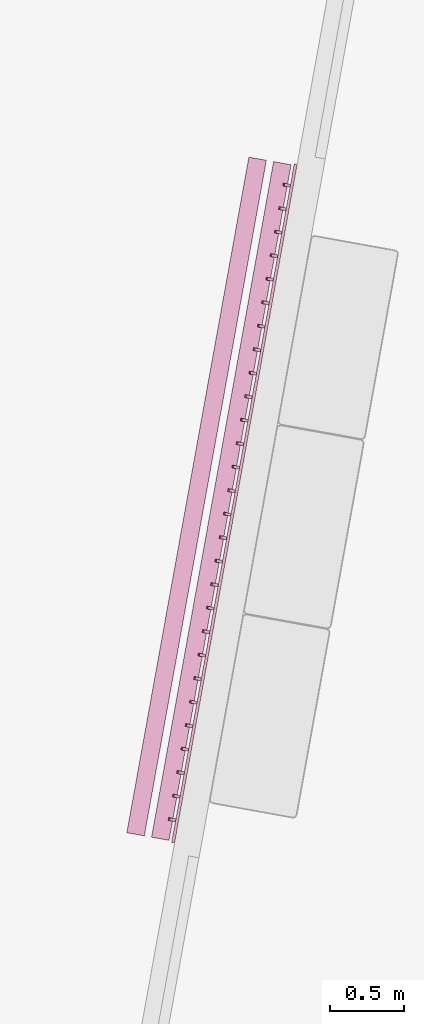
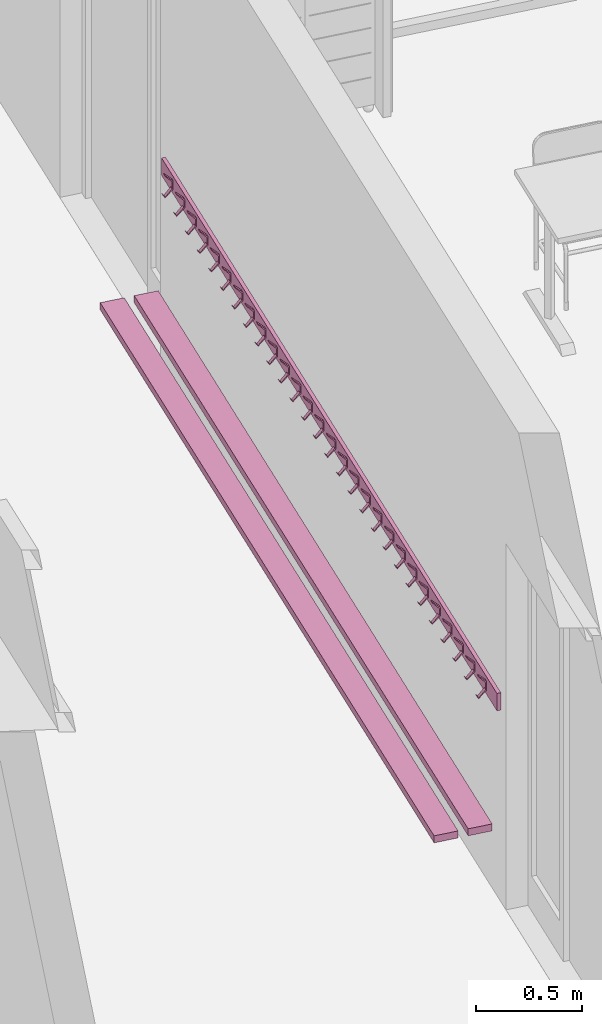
# One storey, part 8 of 79: 2 furnishings.
"""IFC2X3 building model written with IfcOpenShell, lengths in metres."""

import ifcopenshell
import ifcopenshell.guid

model = None  # the IFC model being written
_history = None  # IfcOwnerHistory: only IFC2X3 demands one
_inside = {}  # id of a spatial element -> (the spatial element, [elements in it])
_under = {}  # id of a project, library or spatial element -> (it, [spatial elements below it])
_declared = {}  # id of a project -> (the project, [libraries it declares])
_typed = {}  # id of a type object -> (the type object, [elements of that type])
_made_of = {}  # id of a material, layer set ... -> (it, [elements and type objects made of it])


def new_model(schema):
    """Start an empty IFC model of exactly this schema.

    Asked for "IFC4X3", IfcOpenShell would pick the latest addendum, in which some entities
    have other attributes; the version numbers below select the first issue.
    IFC2X3 requires an IfcOwnerHistory on every rooted entity: one is made here for all.
    """
    global model, _history
    if schema == "IFC4X3":
        model = ifcopenshell.file(schema_version=(4, 3, 0, 0))
    else:
        model = ifcopenshell.file(schema=schema)
    _inside.clear()
    _under.clear()
    _declared.clear()
    _typed.clear()
    _made_of.clear()
    _history = None
    if model.schema == "IFC2X3":
        org = make("IfcOrganization", Name="unknown")
        user = make(
            "IfcPersonAndOrganization",
            ThePerson=make("IfcPerson", FamilyName="unknown"),
            TheOrganization=org,
        )
        app = make(
            "IfcApplication",
            ApplicationDeveloper=org,
            Version="unknown",
            ApplicationFullName="unknown",
            ApplicationIdentifier="unknown",
        )
        _history = make(
            "IfcOwnerHistory",
            OwningUser=user,
            OwningApplication=app,
            ChangeAction="ADDED",
            CreationDate=0,
        )
    return model


def make(cls, **values):
    """One entity of the class cls with the attributes given. An attribute that is None is left unset."""
    return model.create_entity(
        cls, **{name: value for name, value in values.items() if value is not None}
    )


def entity(cls, *values):
    """Any entity or typed value of the class cls, its attributes in the order of the schema. None: left unset."""
    e = model.create_entity(cls)
    for i, value in enumerate(values):
        if value is not None:
            e[i] = value
    return e


def rooted(cls, **values):
    """An entity with a GlobalId (a new one), such as an element, a storey or a relation."""
    return make(cls, GlobalId=ifcopenshell.guid.new(), OwnerHistory=_history, **values)


def si_unit(unit_type, name, prefix=None):
    """IfcSIUnit, for example si_unit("LENGTHUNIT", "METRE", prefix="MILLI")."""
    return make("IfcSIUnit", UnitType=unit_type, Prefix=prefix, Name=name)


def converted_unit(unit_type, name, factor, base, dimensions=None, offset=None):
    """IfcConversionBasedUnit, such as the inch: factor (a typed value) times the base unit."""
    return make(
        "IfcConversionBasedUnit"
        if offset is None
        else "IfcConversionBasedUnitWithOffset",
        ConversionOffset=offset,
        Dimensions=None
        if dimensions is None
        else entity("IfcDimensionalExponents", *dimensions),
        UnitType=unit_type,
        Name=name,
        ConversionFactor=make(
            "IfcMeasureWithUnit", ValueComponent=factor, UnitComponent=base
        ),
    )


def derived_unit(unit_type, elements):
    """IfcDerivedUnit: a product of units, each with its exponent."""
    return make(
        "IfcDerivedUnit",
        Elements=[
            make("IfcDerivedUnitElement", Unit=unit, Exponent=power)
            for unit, power in elements
        ],
        UnitType=unit_type,
    )


def money_unit(currency):
    """IfcMonetaryUnit."""
    return make("IfcMonetaryUnit", Currency=currency)


def assignment(units):
    """IfcUnitAssignment: the units of a project."""
    return None if units is None else make("IfcUnitAssignment", Units=units)


def point(xyz):
    """IfcCartesianPoint."""
    return None if xyz is None else make("IfcCartesianPoint", Coordinates=xyz)


def direction(xyz):
    """IfcDirection."""
    return None if xyz is None else make("IfcDirection", DirectionRatios=xyz)


def frame(location, z_axis=None, x_axis=None):
    """IfcAxis2Placement3D, a coordinate frame: its origin and axes. An axis left out is left unset."""
    return make(
        "IfcAxis2Placement3D",
        Location=point(location),
        Axis=direction(z_axis),
        RefDirection=direction(x_axis),
    )


def origin_with_axes():
    """The frame at (0, 0, 0) with the z axis (0, 0, 1) and the x axis (1, 0, 0) written out."""
    return frame((0.0, 0.0, 0.0), z_axis=(0.0, 0.0, 1.0), x_axis=(1.0, 0.0, 0.0))


def place(relative_to, where):
    """IfcLocalPlacement: puts the frame where relative to a parent placement (None: the world)."""
    return make(
        "IfcLocalPlacement", PlacementRelTo=relative_to, RelativePlacement=where
    )


def context(
    kind, dimensions, precision=None, world=None, true_north=None, identifier=None
):
    """IfcGeometricRepresentationContext, for example the 3D "Model" context."""
    return make(
        "IfcGeometricRepresentationContext",
        ContextIdentifier=identifier,
        ContextType=kind,
        CoordinateSpaceDimension=dimensions,
        Precision=precision,
        WorldCoordinateSystem=world,
        TrueNorth=true_north,
    )


def subcontext(parent, identifier, kind, view, scale=None):
    """IfcGeometricRepresentationSubContext, for example "Body" below "Model"."""
    return make(
        "IfcGeometricRepresentationSubContext",
        ContextIdentifier=identifier,
        ContextType=kind,
        ParentContext=parent,
        TargetScale=scale,
        TargetView=view,
    )


def project(units=None, contexts=None):
    """IfcProject with its units and contexts."""
    return rooted(
        "IfcProject",
        Name="project",
        RepresentationContexts=contexts,
        UnitsInContext=assignment(units),
    )


def spatial(cls, under=None, at=None, **own):
    """A site, building, storey or space (cls), placed at a placement, below another one or the project."""
    s = rooted(cls, ObjectPlacement=at, **own)
    if under is not None:
        _under.setdefault(under.id(), (under, []))[1].append(s)
    return s


def faces_of(points, faces, orient=None, outer=None):
    """IfcFace entities. A face is a list of loops; a loop is a list of indices into points, from 0.

    orient and outer hold one flag for each loop. By default every Orientation is true, the
    first loop of a face is its IfcFaceOuterBound and the others are IfcFaceBound.
    """
    made = []
    for i, loops in enumerate(faces):
        bounds = []
        for j, loop in enumerate(loops):
            is_outer = j == 0 if outer is None else outer[i][j]
            bounds.append(
                make(
                    "IfcFaceOuterBound" if is_outer else "IfcFaceBound",
                    Bound=make("IfcPolyLoop", Polygon=[points[k] for k in loop]),
                    Orientation=True if orient is None else orient[i][j],
                )
            )
        made.append(make("IfcFace", Bounds=bounds))
    return made


def faceted_brep(points, faces, orient=None, outer=None, voids=None):
    """IfcFacetedBrep: a solid bounded by flat faces; with voids (closed shells), ...WithVoids."""
    shared = [point(p) for p in points]
    hull = make("IfcClosedShell", CfsFaces=faces_of(shared, faces, orient, outer))
    if voids is None:
        return make("IfcFacetedBrep", Outer=hull)
    return make(
        "IfcFacetedBrepWithVoids",
        Outer=hull,
        Voids=[
            make(cls, CfsFaces=faces_of(shared, fs, o, b)) for cls, fs, o, b in voids
        ],
    )


def shape(context_of_items, identifier, shape_type, items):
    """IfcShapeRepresentation: the items that make up one representation, for example the "Body"."""
    return make(
        "IfcShapeRepresentation",
        ContextOfItems=context_of_items,
        RepresentationIdentifier=identifier,
        RepresentationType=shape_type,
        Items=items,
    )


def source(mapping_origin, context_of_items, identifier, shape_type, items):
    """IfcRepresentationMap: a shape defined once, which mapped items show again and again."""
    return make(
        "IfcRepresentationMap",
        MappingOrigin=mapping_origin,
        MappedRepresentation=shape(context_of_items, identifier, shape_type, items),
    )


def transform(
    local_origin,
    x_axis=None,
    y_axis=None,
    z_axis=None,
    scale=None,
    scale2=None,
    scale3=None,
    uniform=True,
):
    """IfcCartesianTransformationOperator3D, or its non-uniform kind. x_axis, y_axis, z_axis: its Axis1, 2, 3."""
    if uniform:
        return make(
            "IfcCartesianTransformationOperator3D",
            Axis1=direction(x_axis),
            Axis2=direction(y_axis),
            LocalOrigin=point(local_origin),
            Scale=scale,
            Axis3=direction(z_axis),
        )
    return make(
        "IfcCartesianTransformationOperator3DnonUniform",
        Axis1=direction(x_axis),
        Axis2=direction(y_axis),
        LocalOrigin=point(local_origin),
        Scale=scale,
        Axis3=direction(z_axis),
        Scale2=scale2,
        Scale3=scale3,
    )


def mapped(mapping_source, mapping_target):
    """IfcMappedItem: shows the shape of a source again, moved by a transform."""
    return make(
        "IfcMappedItem", MappingSource=mapping_source, MappingTarget=mapping_target
    )


def material(Name=None, Category=None):
    """IfcMaterial."""
    return make("IfcMaterial", Name=Name, Category=Category)


def made_of(thing, what):
    """Note that an element or type object is made of a material, layer set ...; save() writes the relation."""
    if what is not None:
        _made_of.setdefault(what.id(), (what, []))[1].append(thing)
    return thing


def type_object(cls, material=None, **own):
    """A type object (cls), such as IfcWallType, which elements share."""
    return made_of(rooted(cls, **own), material)


def element(
    cls,
    number,
    at=None,
    inside=None,
    cuts=None,
    type_object=None,
    material=None,
    context=None,
    identifier="Body",
    shape_type=None,
    held_by="IfcProductDefinitionShape",
    body=None,
    shapes=None,
    **own,
):
    """One element of the class cls, such as IfcWall. Its Tag is "e" and its number.

    at: its placement. inside: the storey or other place that contains it. cuts: it is an
    opening in that element (IfcRelVoidsElement). A single representation is given by context,
    identifier, shape_type and body (its items); several are given by shapes. held_by: the class
    of the entity that holds the representations. save() writes the other relations.
    """
    e = rooted(cls, Tag="e%d" % number, ObjectPlacement=at, **own)
    if body is not None:
        shapes = [shape(context, identifier, shape_type, body)]
    if shapes is not None:
        e.Representation = make(held_by, Representations=shapes)
    if inside is not None:
        _inside.setdefault(inside.id(), (inside, []))[1].append(e)
    if cuts is not None:
        rooted(
            "IfcRelVoidsElement", RelatingBuildingElement=cuts, RelatedOpeningElement=e
        )
    if type_object is not None:
        _typed.setdefault(type_object.id(), (type_object, []))[1].append(e)
    return made_of(e, material)


def aggregate(whole, parts):
    """IfcRelAggregates: a whole, such as a stair, and the parts it consists of."""
    return rooted("IfcRelAggregates", RelatingObject=whole, RelatedObjects=parts)


def save(model, path):
    """Write the relations noted so far, then the file.

    IfcRelAggregates (storeys below a building ...), IfcRelContainedInSpatialStructure (elements
    in a storey), IfcRelDefinesByType, IfcRelAssociatesMaterial and IfcRelDeclares: one each for
    every whole, place, type object, material and project.
    """
    for whole, parts in _under.values():
        aggregate(whole, parts)
    for where, things in _inside.values():
        rooted(
            "IfcRelContainedInSpatialStructure",
            RelatedElements=things,
            RelatingStructure=where,
        )
    for kind, things in _typed.values():
        rooted("IfcRelDefinesByType", RelatedObjects=things, RelatingType=kind)
    for what, things in _made_of.values():
        rooted("IfcRelAssociatesMaterial", RelatedObjects=things, RelatingMaterial=what)
    for by, libraries in _declared.values():
        rooted("IfcRelDeclares", RelatingContext=by, RelatedDefinitions=libraries)
    model.write(path)


model = new_model("IFC2X3")

# Units and contexts
model_context = context("Model", 3, precision=1e-05, world=origin_with_axes(), true_north=direction((0.0, 1.0)))
body_context = subcontext(model_context, "Body", "Model", "MODEL_VIEW")
ifc_project = project(units=[si_unit("LENGTHUNIT", "METRE"), si_unit("AREAUNIT", "SQUARE_METRE"), si_unit("VOLUMEUNIT", "CUBIC_METRE"), converted_unit("PLANEANGLEUNIT", "DEGREE", entity("IfcPlaneAngleMeasure", 0.0174532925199), si_unit("PLANEANGLEUNIT", "RADIAN"), dimensions=[0, 0, 0, 0, 0, 0, 0]), money_unit("CHF"), converted_unit("TIMEUNIT", "Year", entity("IfcTimeMeasure", 31556926.0), si_unit("TIMEUNIT", "SECOND"), dimensions=[0, 0, 1, 0, 0, 0, 0]), si_unit("MASSUNIT", "GRAM", prefix="KILO"), si_unit("THERMODYNAMICTEMPERATUREUNIT", "DEGREE_CELSIUS"), si_unit("LUMINOUSINTENSITYUNIT", "LUMEN"), si_unit("ENERGYUNIT", "JOULE", prefix="MEGA"), derived_unit("THERMALCONDUCTANCEUNIT", [(si_unit("POWERUNIT", "WATT"), 1), (si_unit("LENGTHUNIT", "METRE"), -1), (si_unit("THERMODYNAMICTEMPERATUREUNIT", "KELVIN"), -1)]), derived_unit("SPECIFICHEATCAPACITYUNIT", [(si_unit("ENERGYUNIT", "JOULE"), 1), (si_unit("MASSUNIT", "GRAM", prefix="KILO"), -1), (si_unit("THERMODYNAMICTEMPERATUREUNIT", "KELVIN"), -1)]), derived_unit("MASSDENSITYUNIT", [(si_unit("MASSUNIT", "GRAM", prefix="KILO"), 1), (si_unit("VOLUMEUNIT", "CUBIC_METRE"), -1)])], contexts=[model_context])

# Site, building, storey
site_placement = place(None, frame((0.0, 0.0, 0.0), z_axis=(0.0, 0.0, 1.0), x_axis=(-0.177771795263, -0.984071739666, 0.0)))
site = spatial("IfcSite", under=ifc_project, at=site_placement, Name="Site", CompositionType="ELEMENT")
building_placement = place(site_placement, origin_with_axes())
building = spatial("IfcBuilding", under=site, at=building_placement, Name="Bâtiment", CompositionType="ELEMENT")
storey_placement = place(building_placement, origin_with_axes())
storey = spatial("IfcBuildingStorey", under=building, at=storey_placement, Name="RDC", CompositionType="ELEMENT", Elevation=0.0)

# Furnishings
ifc_material_1 = material(Name="Matériau de construction IFC")
furnishing_element_type_1 = type_object("IfcFurnishingElementType", Name="Râtelier mural 21")
shared_shape_1 = source(origin_with_axes(), body_context, "Body", "Brep", [
    faceted_brep([(-2.33000000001, 0.0, 0.0), (2.33000000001, 0.0, 0.0), (2.33000000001, -0.02, 0.0), (-2.33000000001, -0.02, 0.0), (-2.33000000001, 0.0, 0.1), (2.33000000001, 0.0, 0.1), (2.33000000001, -0.02, 0.1), (-2.33000000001, -0.02, 0.1)], [[[0, 1, 2, 3]], [[1, 0, 4, 5]], [[2, 1, 5, 6]], [[3, 2, 6, 7]], [[0, 3, 7, 4]], [[5, 4, 7, 6]]]),
    faceted_brep([(2.16862068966, -0.06, -0.015), (2.16862068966, -0.02, 0.025), (2.18862068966, -0.02, 0.025), (2.18862068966, -0.06, -0.015), (2.16862068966, -0.07, 0.0), (2.16862068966, -0.0675, 0.0), (2.16862068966, -0.06, -0.01), (2.16862068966, -0.025, 0.03), (2.16862068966, -0.025, 0.07), (2.16862068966, -0.06, 0.11), (2.16862068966, -0.06, 0.115), (2.16862068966, -0.02, 0.075), (2.18862068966, -0.02, 0.075), (2.18862068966, -0.06, 0.115), (2.18862068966, -0.06, 0.11), (2.18862068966, -0.025, 0.07), (2.18862068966, -0.025, 0.03), (2.18862068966, -0.06, -0.01), (2.18862068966, -0.0675, 0.0), (2.18862068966, -0.07, 0.0)], [[[0, 1, 2, 3]], [[0, 4, 5, 6, 7, 8, 9, 10, 11, 1]], [[1, 11, 12, 2]], [[3, 2, 12, 13, 14, 15, 16, 17, 18, 19]], [[4, 0, 3, 19]], [[5, 4, 19, 18]], [[6, 5, 18, 17]], [[7, 6, 17, 16]], [[8, 7, 16, 15]], [[9, 8, 15, 14]], [[10, 9, 14, 13]], [[11, 10, 13, 12]]]),
    faceted_brep([(2.00724137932, -0.06, -0.015), (2.00724137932, -0.02, 0.025), (2.02724137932, -0.02, 0.025), (2.02724137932, -0.06, -0.015), (2.00724137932, -0.07, 0.0), (2.00724137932, -0.0675, 0.0), (2.00724137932, -0.06, -0.01), (2.00724137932, -0.025, 0.03), (2.00724137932, -0.025, 0.07), (2.00724137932, -0.06, 0.11), (2.00724137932, -0.06, 0.115), (2.00724137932, -0.02, 0.075), (2.02724137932, -0.02, 0.075), (2.02724137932, -0.06, 0.115), (2.02724137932, -0.06, 0.11), (2.02724137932, -0.025, 0.07), (2.02724137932, -0.025, 0.03), (2.02724137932, -0.06, -0.01), (2.02724137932, -0.0675, 0.0), (2.02724137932, -0.07, 0.0)], [[[0, 1, 2, 3]], [[0, 4, 5, 6, 7, 8, 9, 10, 11, 1]], [[1, 11, 12, 2]], [[3, 2, 12, 13, 14, 15, 16, 17, 18, 19]], [[4, 0, 3, 19]], [[5, 4, 19, 18]], [[6, 5, 18, 17]], [[7, 6, 17, 16]], [[8, 7, 16, 15]], [[9, 8, 15, 14]], [[10, 9, 14, 13]], [[11, 10, 13, 12]]]),
    faceted_brep([(1.84586206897, -0.06, -0.015), (1.84586206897, -0.02, 0.025), (1.86586206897, -0.02, 0.025), (1.86586206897, -0.06, -0.015), (1.84586206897, -0.07, 0.0), (1.84586206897, -0.0675, 0.0), (1.84586206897, -0.06, -0.01), (1.84586206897, -0.025, 0.03), (1.84586206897, -0.025, 0.07), (1.84586206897, -0.06, 0.11), (1.84586206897, -0.06, 0.115), (1.84586206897, -0.02, 0.075), (1.86586206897, -0.02, 0.075), (1.86586206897, -0.06, 0.115), (1.86586206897, -0.06, 0.11), (1.86586206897, -0.025, 0.07), (1.86586206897, -0.025, 0.03), (1.86586206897, -0.06, -0.01), (1.86586206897, -0.0675, 0.0), (1.86586206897, -0.07, 0.0)], [[[0, 1, 2, 3]], [[0, 4, 5, 6, 7, 8, 9, 10, 11, 1]], [[1, 11, 12, 2]], [[3, 2, 12, 13, 14, 15, 16, 17, 18, 19]], [[4, 0, 3, 19]], [[5, 4, 19, 18]], [[6, 5, 18, 17]], [[7, 6, 17, 16]], [[8, 7, 16, 15]], [[9, 8, 15, 14]], [[10, 9, 14, 13]], [[11, 10, 13, 12]]]),
    faceted_brep([(1.68448275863, -0.06, -0.015), (1.68448275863, -0.02, 0.025), (1.70448275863, -0.02, 0.025), (1.70448275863, -0.06, -0.015), (1.68448275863, -0.07, 0.0), (1.68448275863, -0.0675, 0.0), (1.68448275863, -0.06, -0.01), (1.68448275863, -0.025, 0.03), (1.68448275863, -0.025, 0.07), (1.68448275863, -0.06, 0.11), (1.68448275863, -0.06, 0.115), (1.68448275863, -0.02, 0.075), (1.70448275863, -0.02, 0.075), (1.70448275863, -0.06, 0.115), (1.70448275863, -0.06, 0.11), (1.70448275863, -0.025, 0.07), (1.70448275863, -0.025, 0.03), (1.70448275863, -0.06, -0.01), (1.70448275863, -0.0675, 0.0), (1.70448275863, -0.07, 0.0)], [[[0, 1, 2, 3]], [[0, 4, 5, 6, 7, 8, 9, 10, 11, 1]], [[1, 11, 12, 2]], [[3, 2, 12, 13, 14, 15, 16, 17, 18, 19]], [[4, 0, 3, 19]], [[5, 4, 19, 18]], [[6, 5, 18, 17]], [[7, 6, 17, 16]], [[8, 7, 16, 15]], [[9, 8, 15, 14]], [[10, 9, 14, 13]], [[11, 10, 13, 12]]]),
    faceted_brep([(1.52310344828, -0.06, -0.015), (1.52310344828, -0.02, 0.025), (1.54310344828, -0.02, 0.025), (1.54310344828, -0.06, -0.015), (1.52310344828, -0.07, 0.0), (1.52310344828, -0.0675, 0.0), (1.52310344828, -0.06, -0.01), (1.52310344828, -0.025, 0.03), (1.52310344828, -0.025, 0.07), (1.52310344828, -0.06, 0.11), (1.52310344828, -0.06, 0.115), (1.52310344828, -0.02, 0.075), (1.54310344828, -0.02, 0.075), (1.54310344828, -0.06, 0.115), (1.54310344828, -0.06, 0.11), (1.54310344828, -0.025, 0.07), (1.54310344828, -0.025, 0.03), (1.54310344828, -0.06, -0.01), (1.54310344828, -0.0675, 0.0), (1.54310344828, -0.07, 0.0)], [[[0, 1, 2, 3]], [[0, 4, 5, 6, 7, 8, 9, 10, 11, 1]], [[1, 11, 12, 2]], [[3, 2, 12, 13, 14, 15, 16, 17, 18, 19]], [[4, 0, 3, 19]], [[5, 4, 19, 18]], [[6, 5, 18, 17]], [[7, 6, 17, 16]], [[8, 7, 16, 15]], [[9, 8, 15, 14]], [[10, 9, 14, 13]], [[11, 10, 13, 12]]]),
    faceted_brep([(1.36172413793, -0.06, -0.015), (1.36172413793, -0.02, 0.025), (1.38172413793, -0.02, 0.025), (1.38172413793, -0.06, -0.015), (1.36172413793, -0.07, 0.0), (1.36172413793, -0.0675, 0.0), (1.36172413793, -0.06, -0.01), (1.36172413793, -0.025, 0.03), (1.36172413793, -0.025, 0.07), (1.36172413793, -0.06, 0.11), (1.36172413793, -0.06, 0.115), (1.36172413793, -0.02, 0.075), (1.38172413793, -0.02, 0.075), (1.38172413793, -0.06, 0.115), (1.38172413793, -0.06, 0.11), (1.38172413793, -0.025, 0.07), (1.38172413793, -0.025, 0.03), (1.38172413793, -0.06, -0.01), (1.38172413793, -0.0675, 0.0), (1.38172413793, -0.07, 0.0)], [[[0, 1, 2, 3]], [[0, 4, 5, 6, 7, 8, 9, 10, 11, 1]], [[1, 11, 12, 2]], [[3, 2, 12, 13, 14, 15, 16, 17, 18, 19]], [[4, 0, 3, 19]], [[5, 4, 19, 18]], [[6, 5, 18, 17]], [[7, 6, 17, 16]], [[8, 7, 16, 15]], [[9, 8, 15, 14]], [[10, 9, 14, 13]], [[11, 10, 13, 12]]]),
    faceted_brep([(1.20034482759, -0.06, -0.015), (1.20034482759, -0.02, 0.025), (1.22034482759, -0.02, 0.025), (1.22034482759, -0.06, -0.015), (1.20034482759, -0.07, 0.0), (1.20034482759, -0.0675, 0.0), (1.20034482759, -0.06, -0.01), (1.20034482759, -0.025, 0.03), (1.20034482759, -0.025, 0.07), (1.20034482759, -0.06, 0.11), (1.20034482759, -0.06, 0.115), (1.20034482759, -0.02, 0.075), (1.22034482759, -0.02, 0.075), (1.22034482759, -0.06, 0.115), (1.22034482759, -0.06, 0.11), (1.22034482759, -0.025, 0.07), (1.22034482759, -0.025, 0.03), (1.22034482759, -0.06, -0.01), (1.22034482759, -0.0675, 0.0), (1.22034482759, -0.07, 0.0)], [[[0, 1, 2, 3]], [[0, 4, 5, 6, 7, 8, 9, 10, 11, 1]], [[1, 11, 12, 2]], [[3, 2, 12, 13, 14, 15, 16, 17, 18, 19]], [[4, 0, 3, 19]], [[5, 4, 19, 18]], [[6, 5, 18, 17]], [[7, 6, 17, 16]], [[8, 7, 16, 15]], [[9, 8, 15, 14]], [[10, 9, 14, 13]], [[11, 10, 13, 12]]]),
    faceted_brep([(1.03896551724, -0.06, -0.015), (1.03896551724, -0.02, 0.025), (1.05896551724, -0.02, 0.025), (1.05896551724, -0.06, -0.015), (1.03896551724, -0.07, 0.0), (1.03896551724, -0.0675, 0.0), (1.03896551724, -0.06, -0.01), (1.03896551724, -0.025, 0.03), (1.03896551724, -0.025, 0.07), (1.03896551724, -0.06, 0.11), (1.03896551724, -0.06, 0.115), (1.03896551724, -0.02, 0.075), (1.05896551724, -0.02, 0.075), (1.05896551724, -0.06, 0.115), (1.05896551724, -0.06, 0.11), (1.05896551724, -0.025, 0.07), (1.05896551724, -0.025, 0.03), (1.05896551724, -0.06, -0.01), (1.05896551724, -0.0675, 0.0), (1.05896551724, -0.07, 0.0)], [[[0, 1, 2, 3]], [[0, 4, 5, 6, 7, 8, 9, 10, 11, 1]], [[1, 11, 12, 2]], [[3, 2, 12, 13, 14, 15, 16, 17, 18, 19]], [[4, 0, 3, 19]], [[5, 4, 19, 18]], [[6, 5, 18, 17]], [[7, 6, 17, 16]], [[8, 7, 16, 15]], [[9, 8, 15, 14]], [[10, 9, 14, 13]], [[11, 10, 13, 12]]]),
    faceted_brep([(0.877586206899, -0.06, -0.015), (0.877586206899, -0.02, 0.025), (0.897586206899, -0.02, 0.025), (0.897586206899, -0.06, -0.015), (0.877586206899, -0.07, 0.0), (0.877586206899, -0.0675, 0.0), (0.877586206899, -0.06, -0.01), (0.877586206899, -0.025, 0.03), (0.877586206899, -0.025, 0.07), (0.877586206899, -0.06, 0.11), (0.877586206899, -0.06, 0.115), (0.877586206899, -0.02, 0.075), (0.897586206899, -0.02, 0.075), (0.897586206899, -0.06, 0.115), (0.897586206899, -0.06, 0.11), (0.897586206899, -0.025, 0.07), (0.897586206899, -0.025, 0.03), (0.897586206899, -0.06, -0.01), (0.897586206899, -0.0675, 0.0), (0.897586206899, -0.07, 0.0)], [[[0, 1, 2, 3]], [[0, 4, 5, 6, 7, 8, 9, 10, 11, 1]], [[1, 11, 12, 2]], [[3, 2, 12, 13, 14, 15, 16, 17, 18, 19]], [[4, 0, 3, 19]], [[5, 4, 19, 18]], [[6, 5, 18, 17]], [[7, 6, 17, 16]], [[8, 7, 16, 15]], [[9, 8, 15, 14]], [[10, 9, 14, 13]], [[11, 10, 13, 12]]]),
    faceted_brep([(0.716206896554, -0.06, -0.015), (0.716206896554, -0.02, 0.025), (0.736206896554, -0.02, 0.025), (0.736206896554, -0.06, -0.015), (0.716206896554, -0.07, 0.0), (0.716206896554, -0.0675, 0.0), (0.716206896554, -0.06, -0.01), (0.716206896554, -0.025, 0.03), (0.716206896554, -0.025, 0.07), (0.716206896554, -0.06, 0.11), (0.716206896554, -0.06, 0.115), (0.716206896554, -0.02, 0.075), (0.736206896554, -0.02, 0.075), (0.736206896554, -0.06, 0.115), (0.736206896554, -0.06, 0.11), (0.736206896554, -0.025, 0.07), (0.736206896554, -0.025, 0.03), (0.736206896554, -0.06, -0.01), (0.736206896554, -0.0675, 0.0), (0.736206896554, -0.07, 0.0)], [[[0, 1, 2, 3]], [[0, 4, 5, 6, 7, 8, 9, 10, 11, 1]], [[1, 11, 12, 2]], [[3, 2, 12, 13, 14, 15, 16, 17, 18, 19]], [[4, 0, 3, 19]], [[5, 4, 19, 18]], [[6, 5, 18, 17]], [[7, 6, 17, 16]], [[8, 7, 16, 15]], [[9, 8, 15, 14]], [[10, 9, 14, 13]], [[11, 10, 13, 12]]]),
    faceted_brep([(0.554827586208, -0.06, -0.015), (0.554827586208, -0.02, 0.025), (0.574827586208, -0.02, 0.025), (0.574827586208, -0.06, -0.015), (0.554827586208, -0.07, 0.0), (0.554827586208, -0.0675, 0.0), (0.554827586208, -0.06, -0.01), (0.554827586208, -0.025, 0.03), (0.554827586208, -0.025, 0.07), (0.554827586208, -0.06, 0.11), (0.554827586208, -0.06, 0.115), (0.554827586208, -0.02, 0.075), (0.574827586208, -0.02, 0.075), (0.574827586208, -0.06, 0.115), (0.574827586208, -0.06, 0.11), (0.574827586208, -0.025, 0.07), (0.574827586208, -0.025, 0.03), (0.574827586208, -0.06, -0.01), (0.574827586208, -0.0675, 0.0), (0.574827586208, -0.07, 0.0)], [[[0, 1, 2, 3]], [[0, 4, 5, 6, 7, 8, 9, 10, 11, 1]], [[1, 11, 12, 2]], [[3, 2, 12, 13, 14, 15, 16, 17, 18, 19]], [[4, 0, 3, 19]], [[5, 4, 19, 18]], [[6, 5, 18, 17]], [[7, 6, 17, 16]], [[8, 7, 16, 15]], [[9, 8, 15, 14]], [[10, 9, 14, 13]], [[11, 10, 13, 12]]]),
    faceted_brep([(0.393448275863, -0.06, -0.015), (0.393448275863, -0.02, 0.025), (0.413448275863, -0.02, 0.025), (0.413448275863, -0.06, -0.015), (0.393448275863, -0.07, 0.0), (0.393448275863, -0.0675, 0.0), (0.393448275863, -0.06, -0.01), (0.393448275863, -0.025, 0.03), (0.393448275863, -0.025, 0.07), (0.393448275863, -0.06, 0.11), (0.393448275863, -0.06, 0.115), (0.393448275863, -0.02, 0.075), (0.413448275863, -0.02, 0.075), (0.413448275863, -0.06, 0.115), (0.413448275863, -0.06, 0.11), (0.413448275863, -0.025, 0.07), (0.413448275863, -0.025, 0.03), (0.413448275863, -0.06, -0.01), (0.413448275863, -0.0675, 0.0), (0.413448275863, -0.07, 0.0)], [[[0, 1, 2, 3]], [[0, 4, 5, 6, 7, 8, 9, 10, 11, 1]], [[1, 11, 12, 2]], [[3, 2, 12, 13, 14, 15, 16, 17, 18, 19]], [[4, 0, 3, 19]], [[5, 4, 19, 18]], [[6, 5, 18, 17]], [[7, 6, 17, 16]], [[8, 7, 16, 15]], [[9, 8, 15, 14]], [[10, 9, 14, 13]], [[11, 10, 13, 12]]]),
    faceted_brep([(0.232068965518, -0.06, -0.015), (0.232068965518, -0.02, 0.025), (0.252068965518, -0.02, 0.025), (0.252068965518, -0.06, -0.015), (0.232068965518, -0.07, 0.0), (0.232068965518, -0.0675, 0.0), (0.232068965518, -0.06, -0.01), (0.232068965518, -0.025, 0.03), (0.232068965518, -0.025, 0.07), (0.232068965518, -0.06, 0.11), (0.232068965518, -0.06, 0.115), (0.232068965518, -0.02, 0.075), (0.252068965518, -0.02, 0.075), (0.252068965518, -0.06, 0.115), (0.252068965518, -0.06, 0.11), (0.252068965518, -0.025, 0.07), (0.252068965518, -0.025, 0.03), (0.252068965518, -0.06, -0.01), (0.252068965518, -0.0675, 0.0), (0.252068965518, -0.07, 0.0)], [[[0, 1, 2, 3]], [[0, 4, 5, 6, 7, 8, 9, 10, 11, 1]], [[1, 11, 12, 2]], [[3, 2, 12, 13, 14, 15, 16, 17, 18, 19]], [[4, 0, 3, 19]], [[5, 4, 19, 18]], [[6, 5, 18, 17]], [[7, 6, 17, 16]], [[8, 7, 16, 15]], [[9, 8, 15, 14]], [[10, 9, 14, 13]], [[11, 10, 13, 12]]]),
    faceted_brep([(0.0706896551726, -0.06, -0.015), (0.0706896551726, -0.02, 0.025), (0.0906896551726, -0.02, 0.025), (0.0906896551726, -0.06, -0.015), (0.0706896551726, -0.07, 0.0), (0.0706896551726, -0.0675, 0.0), (0.0706896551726, -0.06, -0.01), (0.0706896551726, -0.025, 0.03), (0.0706896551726, -0.025, 0.07), (0.0706896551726, -0.06, 0.11), (0.0706896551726, -0.06, 0.115), (0.0706896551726, -0.02, 0.075), (0.0906896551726, -0.02, 0.075), (0.0906896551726, -0.06, 0.115), (0.0906896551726, -0.06, 0.11), (0.0906896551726, -0.025, 0.07), (0.0906896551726, -0.025, 0.03), (0.0906896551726, -0.06, -0.01), (0.0906896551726, -0.0675, 0.0), (0.0906896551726, -0.07, 0.0)], [[[0, 1, 2, 3]], [[0, 4, 5, 6, 7, 8, 9, 10, 11, 1]], [[1, 11, 12, 2]], [[3, 2, 12, 13, 14, 15, 16, 17, 18, 19]], [[4, 0, 3, 19]], [[5, 4, 19, 18]], [[6, 5, 18, 17]], [[7, 6, 17, 16]], [[8, 7, 16, 15]], [[9, 8, 15, 14]], [[10, 9, 14, 13]], [[11, 10, 13, 12]]]),
    faceted_brep([(-0.0906896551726, -0.06, -0.015), (-0.0906896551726, -0.02, 0.025), (-0.0706896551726, -0.02, 0.025), (-0.0706896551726, -0.06, -0.015), (-0.0906896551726, -0.07, 0.0), (-0.0906896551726, -0.0675, 0.0), (-0.0906896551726, -0.06, -0.01), (-0.0906896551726, -0.025, 0.03), (-0.0906896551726, -0.025, 0.07), (-0.0906896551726, -0.06, 0.11), (-0.0906896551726, -0.06, 0.115), (-0.0906896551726, -0.02, 0.075), (-0.0706896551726, -0.02, 0.075), (-0.0706896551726, -0.06, 0.115), (-0.0706896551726, -0.06, 0.11), (-0.0706896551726, -0.025, 0.07), (-0.0706896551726, -0.025, 0.03), (-0.0706896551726, -0.06, -0.01), (-0.0706896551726, -0.0675, 0.0), (-0.0706896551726, -0.07, 0.0)], [[[0, 1, 2, 3]], [[0, 4, 5, 6, 7, 8, 9, 10, 11, 1]], [[1, 11, 12, 2]], [[3, 2, 12, 13, 14, 15, 16, 17, 18, 19]], [[4, 0, 3, 19]], [[5, 4, 19, 18]], [[6, 5, 18, 17]], [[7, 6, 17, 16]], [[8, 7, 16, 15]], [[9, 8, 15, 14]], [[10, 9, 14, 13]], [[11, 10, 13, 12]]]),
    faceted_brep([(-0.252068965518, -0.06, -0.015), (-0.252068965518, -0.02, 0.025), (-0.232068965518, -0.02, 0.025), (-0.232068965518, -0.06, -0.015), (-0.252068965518, -0.07, 0.0), (-0.252068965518, -0.0675, 0.0), (-0.252068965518, -0.06, -0.01), (-0.252068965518, -0.025, 0.03), (-0.252068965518, -0.025, 0.07), (-0.252068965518, -0.06, 0.11), (-0.252068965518, -0.06, 0.115), (-0.252068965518, -0.02, 0.075), (-0.232068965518, -0.02, 0.075), (-0.232068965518, -0.06, 0.115), (-0.232068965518, -0.06, 0.11), (-0.232068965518, -0.025, 0.07), (-0.232068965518, -0.025, 0.03), (-0.232068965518, -0.06, -0.01), (-0.232068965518, -0.0675, 0.0), (-0.232068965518, -0.07, 0.0)], [[[0, 1, 2, 3]], [[0, 4, 5, 6, 7, 8, 9, 10, 11, 1]], [[1, 11, 12, 2]], [[3, 2, 12, 13, 14, 15, 16, 17, 18, 19]], [[4, 0, 3, 19]], [[5, 4, 19, 18]], [[6, 5, 18, 17]], [[7, 6, 17, 16]], [[8, 7, 16, 15]], [[9, 8, 15, 14]], [[10, 9, 14, 13]], [[11, 10, 13, 12]]]),
    faceted_brep([(-0.413448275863, -0.06, -0.015), (-0.413448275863, -0.02, 0.025), (-0.393448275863, -0.02, 0.025), (-0.393448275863, -0.06, -0.015), (-0.413448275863, -0.07, 0.0), (-0.413448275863, -0.0675, 0.0), (-0.413448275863, -0.06, -0.01), (-0.413448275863, -0.025, 0.03), (-0.413448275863, -0.025, 0.07), (-0.413448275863, -0.06, 0.11), (-0.413448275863, -0.06, 0.115), (-0.413448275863, -0.02, 0.075), (-0.393448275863, -0.02, 0.075), (-0.393448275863, -0.06, 0.115), (-0.393448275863, -0.06, 0.11), (-0.393448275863, -0.025, 0.07), (-0.393448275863, -0.025, 0.03), (-0.393448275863, -0.06, -0.01), (-0.393448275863, -0.0675, 0.0), (-0.393448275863, -0.07, 0.0)], [[[0, 1, 2, 3]], [[0, 4, 5, 6, 7, 8, 9, 10, 11, 1]], [[1, 11, 12, 2]], [[3, 2, 12, 13, 14, 15, 16, 17, 18, 19]], [[4, 0, 3, 19]], [[5, 4, 19, 18]], [[6, 5, 18, 17]], [[7, 6, 17, 16]], [[8, 7, 16, 15]], [[9, 8, 15, 14]], [[10, 9, 14, 13]], [[11, 10, 13, 12]]]),
    faceted_brep([(-0.574827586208, -0.06, -0.015), (-0.574827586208, -0.02, 0.025), (-0.554827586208, -0.02, 0.025), (-0.554827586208, -0.06, -0.015), (-0.574827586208, -0.07, 0.0), (-0.574827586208, -0.0675, 0.0), (-0.574827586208, -0.06, -0.01), (-0.574827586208, -0.025, 0.03), (-0.574827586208, -0.025, 0.07), (-0.574827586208, -0.06, 0.11), (-0.574827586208, -0.06, 0.115), (-0.574827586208, -0.02, 0.075), (-0.554827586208, -0.02, 0.075), (-0.554827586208, -0.06, 0.115), (-0.554827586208, -0.06, 0.11), (-0.554827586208, -0.025, 0.07), (-0.554827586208, -0.025, 0.03), (-0.554827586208, -0.06, -0.01), (-0.554827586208, -0.0675, 0.0), (-0.554827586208, -0.07, 0.0)], [[[0, 1, 2, 3]], [[0, 4, 5, 6, 7, 8, 9, 10, 11, 1]], [[1, 11, 12, 2]], [[3, 2, 12, 13, 14, 15, 16, 17, 18, 19]], [[4, 0, 3, 19]], [[5, 4, 19, 18]], [[6, 5, 18, 17]], [[7, 6, 17, 16]], [[8, 7, 16, 15]], [[9, 8, 15, 14]], [[10, 9, 14, 13]], [[11, 10, 13, 12]]]),
    faceted_brep([(-0.736206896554, -0.06, -0.015), (-0.736206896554, -0.02, 0.025), (-0.716206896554, -0.02, 0.025), (-0.716206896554, -0.06, -0.015), (-0.736206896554, -0.07, 0.0), (-0.736206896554, -0.0675, 0.0), (-0.736206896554, -0.06, -0.01), (-0.736206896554, -0.025, 0.03), (-0.736206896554, -0.025, 0.07), (-0.736206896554, -0.06, 0.11), (-0.736206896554, -0.06, 0.115), (-0.736206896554, -0.02, 0.075), (-0.716206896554, -0.02, 0.075), (-0.716206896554, -0.06, 0.115), (-0.716206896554, -0.06, 0.11), (-0.716206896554, -0.025, 0.07), (-0.716206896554, -0.025, 0.03), (-0.716206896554, -0.06, -0.01), (-0.716206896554, -0.0675, 0.0), (-0.716206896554, -0.07, 0.0)], [[[0, 1, 2, 3]], [[0, 4, 5, 6, 7, 8, 9, 10, 11, 1]], [[1, 11, 12, 2]], [[3, 2, 12, 13, 14, 15, 16, 17, 18, 19]], [[4, 0, 3, 19]], [[5, 4, 19, 18]], [[6, 5, 18, 17]], [[7, 6, 17, 16]], [[8, 7, 16, 15]], [[9, 8, 15, 14]], [[10, 9, 14, 13]], [[11, 10, 13, 12]]]),
    faceted_brep([(-0.897586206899, -0.06, -0.015), (-0.897586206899, -0.02, 0.025), (-0.877586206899, -0.02, 0.025), (-0.877586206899, -0.06, -0.015), (-0.897586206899, -0.07, 0.0), (-0.897586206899, -0.0675, 0.0), (-0.897586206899, -0.06, -0.01), (-0.897586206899, -0.025, 0.03), (-0.897586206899, -0.025, 0.07), (-0.897586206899, -0.06, 0.11), (-0.897586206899, -0.06, 0.115), (-0.897586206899, -0.02, 0.075), (-0.877586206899, -0.02, 0.075), (-0.877586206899, -0.06, 0.115), (-0.877586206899, -0.06, 0.11), (-0.877586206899, -0.025, 0.07), (-0.877586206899, -0.025, 0.03), (-0.877586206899, -0.06, -0.01), (-0.877586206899, -0.0675, 0.0), (-0.877586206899, -0.07, 0.0)], [[[0, 1, 2, 3]], [[0, 4, 5, 6, 7, 8, 9, 10, 11, 1]], [[1, 11, 12, 2]], [[3, 2, 12, 13, 14, 15, 16, 17, 18, 19]], [[4, 0, 3, 19]], [[5, 4, 19, 18]], [[6, 5, 18, 17]], [[7, 6, 17, 16]], [[8, 7, 16, 15]], [[9, 8, 15, 14]], [[10, 9, 14, 13]], [[11, 10, 13, 12]]]),
    faceted_brep([(-1.05896551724, -0.06, -0.015), (-1.05896551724, -0.02, 0.025), (-1.03896551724, -0.02, 0.025), (-1.03896551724, -0.06, -0.015), (-1.05896551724, -0.07, 0.0), (-1.05896551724, -0.0675, 0.0), (-1.05896551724, -0.06, -0.01), (-1.05896551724, -0.025, 0.03), (-1.05896551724, -0.025, 0.07), (-1.05896551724, -0.06, 0.11), (-1.05896551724, -0.06, 0.115), (-1.05896551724, -0.02, 0.075), (-1.03896551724, -0.02, 0.075), (-1.03896551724, -0.06, 0.115), (-1.03896551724, -0.06, 0.11), (-1.03896551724, -0.025, 0.07), (-1.03896551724, -0.025, 0.03), (-1.03896551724, -0.06, -0.01), (-1.03896551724, -0.0675, 0.0), (-1.03896551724, -0.07, 0.0)], [[[0, 1, 2, 3]], [[0, 4, 5, 6, 7, 8, 9, 10, 11, 1]], [[1, 11, 12, 2]], [[3, 2, 12, 13, 14, 15, 16, 17, 18, 19]], [[4, 0, 3, 19]], [[5, 4, 19, 18]], [[6, 5, 18, 17]], [[7, 6, 17, 16]], [[8, 7, 16, 15]], [[9, 8, 15, 14]], [[10, 9, 14, 13]], [[11, 10, 13, 12]]]),
    faceted_brep([(-1.22034482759, -0.06, -0.015), (-1.22034482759, -0.02, 0.025), (-1.20034482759, -0.02, 0.025), (-1.20034482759, -0.06, -0.015), (-1.22034482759, -0.07, 0.0), (-1.22034482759, -0.0675, 0.0), (-1.22034482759, -0.06, -0.01), (-1.22034482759, -0.025, 0.03), (-1.22034482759, -0.025, 0.07), (-1.22034482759, -0.06, 0.11), (-1.22034482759, -0.06, 0.115), (-1.22034482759, -0.02, 0.075), (-1.20034482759, -0.02, 0.075), (-1.20034482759, -0.06, 0.115), (-1.20034482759, -0.06, 0.11), (-1.20034482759, -0.025, 0.07), (-1.20034482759, -0.025, 0.03), (-1.20034482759, -0.06, -0.01), (-1.20034482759, -0.0675, 0.0), (-1.20034482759, -0.07, 0.0)], [[[0, 1, 2, 3]], [[0, 4, 5, 6, 7, 8, 9, 10, 11, 1]], [[1, 11, 12, 2]], [[3, 2, 12, 13, 14, 15, 16, 17, 18, 19]], [[4, 0, 3, 19]], [[5, 4, 19, 18]], [[6, 5, 18, 17]], [[7, 6, 17, 16]], [[8, 7, 16, 15]], [[9, 8, 15, 14]], [[10, 9, 14, 13]], [[11, 10, 13, 12]]]),
    faceted_brep([(-1.38172413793, -0.06, -0.015), (-1.38172413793, -0.02, 0.025), (-1.36172413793, -0.02, 0.025), (-1.36172413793, -0.06, -0.015), (-1.38172413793, -0.07, 0.0), (-1.38172413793, -0.0675, 0.0), (-1.38172413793, -0.06, -0.01), (-1.38172413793, -0.025, 0.03), (-1.38172413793, -0.025, 0.07), (-1.38172413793, -0.06, 0.11), (-1.38172413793, -0.06, 0.115), (-1.38172413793, -0.02, 0.075), (-1.36172413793, -0.02, 0.075), (-1.36172413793, -0.06, 0.115), (-1.36172413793, -0.06, 0.11), (-1.36172413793, -0.025, 0.07), (-1.36172413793, -0.025, 0.03), (-1.36172413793, -0.06, -0.01), (-1.36172413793, -0.0675, 0.0), (-1.36172413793, -0.07, 0.0)], [[[0, 1, 2, 3]], [[0, 4, 5, 6, 7, 8, 9, 10, 11, 1]], [[1, 11, 12, 2]], [[3, 2, 12, 13, 14, 15, 16, 17, 18, 19]], [[4, 0, 3, 19]], [[5, 4, 19, 18]], [[6, 5, 18, 17]], [[7, 6, 17, 16]], [[8, 7, 16, 15]], [[9, 8, 15, 14]], [[10, 9, 14, 13]], [[11, 10, 13, 12]]]),
    faceted_brep([(-1.54310344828, -0.06, -0.015), (-1.54310344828, -0.02, 0.025), (-1.52310344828, -0.02, 0.025), (-1.52310344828, -0.06, -0.015), (-1.54310344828, -0.07, 0.0), (-1.54310344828, -0.0675, 0.0), (-1.54310344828, -0.06, -0.01), (-1.54310344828, -0.025, 0.03), (-1.54310344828, -0.025, 0.07), (-1.54310344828, -0.06, 0.11), (-1.54310344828, -0.06, 0.115), (-1.54310344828, -0.02, 0.075), (-1.52310344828, -0.02, 0.075), (-1.52310344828, -0.06, 0.115), (-1.52310344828, -0.06, 0.11), (-1.52310344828, -0.025, 0.07), (-1.52310344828, -0.025, 0.03), (-1.52310344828, -0.06, -0.01), (-1.52310344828, -0.0675, 0.0), (-1.52310344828, -0.07, 0.0)], [[[0, 1, 2, 3]], [[0, 4, 5, 6, 7, 8, 9, 10, 11, 1]], [[1, 11, 12, 2]], [[3, 2, 12, 13, 14, 15, 16, 17, 18, 19]], [[4, 0, 3, 19]], [[5, 4, 19, 18]], [[6, 5, 18, 17]], [[7, 6, 17, 16]], [[8, 7, 16, 15]], [[9, 8, 15, 14]], [[10, 9, 14, 13]], [[11, 10, 13, 12]]]),
    faceted_brep([(-1.70448275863, -0.06, -0.015), (-1.70448275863, -0.02, 0.025), (-1.68448275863, -0.02, 0.025), (-1.68448275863, -0.06, -0.015), (-1.70448275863, -0.07, 0.0), (-1.70448275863, -0.0675, 0.0), (-1.70448275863, -0.06, -0.01), (-1.70448275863, -0.025, 0.03), (-1.70448275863, -0.025, 0.07), (-1.70448275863, -0.06, 0.11), (-1.70448275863, -0.06, 0.115), (-1.70448275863, -0.02, 0.075), (-1.68448275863, -0.02, 0.075), (-1.68448275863, -0.06, 0.115), (-1.68448275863, -0.06, 0.11), (-1.68448275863, -0.025, 0.07), (-1.68448275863, -0.025, 0.03), (-1.68448275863, -0.06, -0.01), (-1.68448275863, -0.0675, 0.0), (-1.68448275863, -0.07, 0.0)], [[[0, 1, 2, 3]], [[0, 4, 5, 6, 7, 8, 9, 10, 11, 1]], [[1, 11, 12, 2]], [[3, 2, 12, 13, 14, 15, 16, 17, 18, 19]], [[4, 0, 3, 19]], [[5, 4, 19, 18]], [[6, 5, 18, 17]], [[7, 6, 17, 16]], [[8, 7, 16, 15]], [[9, 8, 15, 14]], [[10, 9, 14, 13]], [[11, 10, 13, 12]]]),
    faceted_brep([(-1.86586206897, -0.06, -0.015), (-1.86586206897, -0.02, 0.025), (-1.84586206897, -0.02, 0.025), (-1.84586206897, -0.06, -0.015), (-1.86586206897, -0.07, 0.0), (-1.86586206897, -0.0675, 0.0), (-1.86586206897, -0.06, -0.01), (-1.86586206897, -0.025, 0.03), (-1.86586206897, -0.025, 0.07), (-1.86586206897, -0.06, 0.11), (-1.86586206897, -0.06, 0.115), (-1.86586206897, -0.02, 0.075), (-1.84586206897, -0.02, 0.075), (-1.84586206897, -0.06, 0.115), (-1.84586206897, -0.06, 0.11), (-1.84586206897, -0.025, 0.07), (-1.84586206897, -0.025, 0.03), (-1.84586206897, -0.06, -0.01), (-1.84586206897, -0.0675, 0.0), (-1.84586206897, -0.07, 0.0)], [[[0, 1, 2, 3]], [[0, 4, 5, 6, 7, 8, 9, 10, 11, 1]], [[1, 11, 12, 2]], [[3, 2, 12, 13, 14, 15, 16, 17, 18, 19]], [[4, 0, 3, 19]], [[5, 4, 19, 18]], [[6, 5, 18, 17]], [[7, 6, 17, 16]], [[8, 7, 16, 15]], [[9, 8, 15, 14]], [[10, 9, 14, 13]], [[11, 10, 13, 12]]]),
    faceted_brep([(-2.02724137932, -0.06, -0.015), (-2.02724137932, -0.02, 0.025), (-2.00724137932, -0.02, 0.025), (-2.00724137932, -0.06, -0.015), (-2.02724137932, -0.07, 0.0), (-2.02724137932, -0.0675, 0.0), (-2.02724137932, -0.06, -0.01), (-2.02724137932, -0.025, 0.03), (-2.02724137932, -0.025, 0.07), (-2.02724137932, -0.06, 0.11), (-2.02724137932, -0.06, 0.115), (-2.02724137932, -0.02, 0.075), (-2.00724137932, -0.02, 0.075), (-2.00724137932, -0.06, 0.115), (-2.00724137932, -0.06, 0.11), (-2.00724137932, -0.025, 0.07), (-2.00724137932, -0.025, 0.03), (-2.00724137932, -0.06, -0.01), (-2.00724137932, -0.0675, 0.0), (-2.00724137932, -0.07, 0.0)], [[[0, 1, 2, 3]], [[0, 4, 5, 6, 7, 8, 9, 10, 11, 1]], [[1, 11, 12, 2]], [[3, 2, 12, 13, 14, 15, 16, 17, 18, 19]], [[4, 0, 3, 19]], [[5, 4, 19, 18]], [[6, 5, 18, 17]], [[7, 6, 17, 16]], [[8, 7, 16, 15]], [[9, 8, 15, 14]], [[10, 9, 14, 13]], [[11, 10, 13, 12]]]),
    faceted_brep([(-2.18862068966, -0.06, -0.015), (-2.18862068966, -0.02, 0.025), (-2.16862068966, -0.02, 0.025), (-2.16862068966, -0.06, -0.015), (-2.18862068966, -0.07, 0.0), (-2.18862068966, -0.0675, 0.0), (-2.18862068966, -0.06, -0.01), (-2.18862068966, -0.025, 0.03), (-2.18862068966, -0.025, 0.07), (-2.18862068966, -0.06, 0.11), (-2.18862068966, -0.06, 0.115), (-2.18862068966, -0.02, 0.075), (-2.16862068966, -0.02, 0.075), (-2.16862068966, -0.06, 0.115), (-2.16862068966, -0.06, 0.11), (-2.16862068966, -0.025, 0.07), (-2.16862068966, -0.025, 0.03), (-2.16862068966, -0.06, -0.01), (-2.16862068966, -0.0675, 0.0), (-2.16862068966, -0.07, 0.0)], [[[0, 1, 2, 3]], [[0, 4, 5, 6, 7, 8, 9, 10, 11, 1]], [[1, 11, 12, 2]], [[3, 2, 12, 13, 14, 15, 16, 17, 18, 19]], [[4, 0, 3, 19]], [[5, 4, 19, 18]], [[6, 5, 18, 17]], [[7, 6, 17, 16]], [[8, 7, 16, 15]], [[9, 8, 15, 14]], [[10, 9, 14, 13]], [[11, 10, 13, 12]]]),
])
furnishing_1_placement = place(storey_placement, frame((133.185035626, -156.627251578, 1.1), z_axis=(0.0, 0.0, 1.0), x_axis=(1.0, 0.0, 0.0)))
element("IfcFurnishingElement", 1, at=furnishing_1_placement, inside=storey, type_object=furnishing_element_type_1, material=ifc_material_1, Name="pateres-couloir", ObjectType="SYSTEM_FURNITURE", context=body_context, shape_type="MappedRepresentation", body=[
    mapped(shared_shape_1, transform((0.0, 0.0, 0.0))),
])
ifc_material_2 = material(Name="_Bois contreplaqué")
furnishing_element_type_2 = type_object("IfcFurnishingElementType", Name="Banc-couloir")
shared_shape_2 = source(origin_with_axes(), body_context, "Body", "Brep", [
    faceted_brep([(0.0, 0.0, 0.38), (2.3200000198, 0.0, 0.38), (2.3200000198, 0.0, 0.42), (0.0, 0.0, 0.42), (0.0, 0.12, 0.38), (2.3200000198, 0.12, 0.38), (2.3200000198, 0.12, 0.42), (0.0, 0.12, 0.42)], [[[0, 1, 2, 3]], [[0, 4, 5, 1]], [[1, 5, 6, 2]], [[3, 2, 6, 7]], [[4, 0, 3, 7]], [[5, 4, 7, 6]]]),
    faceted_brep([(0.0, 0.17, 0.38), (2.3200000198, 0.17, 0.38), (2.3200000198, 0.17, 0.42), (0.0, 0.17, 0.42), (0.0, 0.29, 0.38), (2.3200000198, 0.29, 0.38), (2.3200000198, 0.29, 0.42), (0.0, 0.29, 0.42)], [[[0, 1, 2, 3]], [[0, 4, 5, 1]], [[1, 5, 6, 2]], [[3, 2, 6, 7]], [[4, 0, 3, 7]], [[5, 4, 7, 6]]]),
    faceted_brep([(2.3199999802, 0.0, 0.38), (4.64, 0.0, 0.38), (4.64, 0.0, 0.42), (2.3199999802, 0.0, 0.42), (2.3199999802, 0.12, 0.38), (4.64, 0.12, 0.38), (4.64, 0.12, 0.42), (2.3199999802, 0.12, 0.42)], [[[0, 1, 2, 3]], [[0, 4, 5, 1]], [[1, 5, 6, 2]], [[3, 2, 6, 7]], [[4, 0, 3, 7]], [[5, 4, 7, 6]]]),
    faceted_brep([(2.3199999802, 0.17, 0.38), (4.64, 0.17, 0.38), (4.64, 0.17, 0.42), (2.3199999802, 0.17, 0.42), (2.3199999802, 0.29, 0.38), (4.64, 0.29, 0.38), (4.64, 0.29, 0.42), (2.3199999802, 0.29, 0.42)], [[[0, 1, 2, 3]], [[0, 4, 5, 1]], [[1, 5, 6, 2]], [[3, 2, 6, 7]], [[4, 0, 3, 7]], [[5, 4, 7, 6]]]),
])
furnishing_2_placement = place(storey_placement, frame((130.865035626, -156.957251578, 0.03), z_axis=(0.0, 0.0, 1.0), x_axis=(1.0, 0.0, 0.0)))
element("IfcFurnishingElement", 2, at=furnishing_2_placement, inside=storey, type_object=furnishing_element_type_2, material=ifc_material_2, Name="banc-couloir", ObjectType="SYSTEM_FURNITURE", context=body_context, shape_type="MappedRepresentation", body=[
    mapped(shared_shape_2, transform((0.0, 0.0, 0.0))),
])

save(model, "model.ifc")
